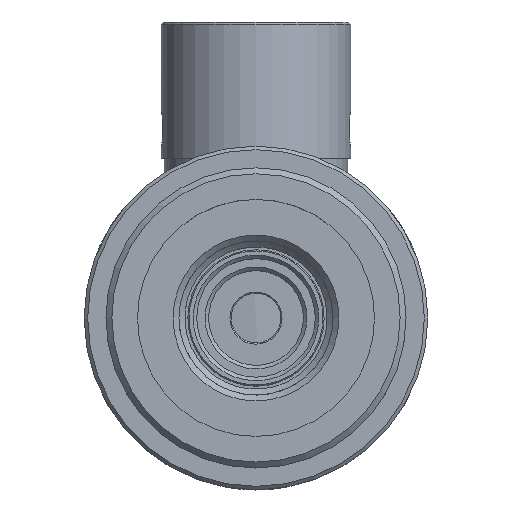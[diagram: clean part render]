
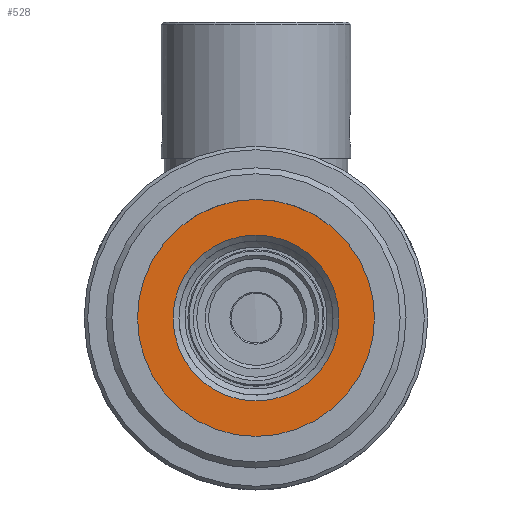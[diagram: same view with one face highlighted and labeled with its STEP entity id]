
A CAD part, top view. The second image highlights one B-rep face of the part: STEP entity #528.
In plain terms, the highlighted planar face has unit normal (0, 0, 1).
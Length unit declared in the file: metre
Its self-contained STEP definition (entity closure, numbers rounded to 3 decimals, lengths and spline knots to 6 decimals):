
#528=ADVANCED_FACE('NONE',(#1366,#1367),#1368,.F.);
#1366=FACE_BOUND('',#2676,.T.);
#1367=FACE_OUTER_BOUND('',#2677,.T.);
#1368=PLANE('',#2678);
#2676=EDGE_LOOP('',(#4200));
#2677=EDGE_LOOP('',(#4201));
#2678=AXIS2_PLACEMENT_3D('',#4202,#4203,#4204);
#4200=ORIENTED_EDGE('',*,*,#6549,.T.);
#4201=ORIENTED_EDGE('',*,*,#6547,.F.);
#4202=CARTESIAN_POINT('',(0.012802,0.010149,0.044099));
#4203=DIRECTION('',(0.,0.0,-1.0));
#4204=DIRECTION('',(-1.0,0.0,0.));
#6547=EDGE_CURVE('NONE',#7676,#7676,#7677,.T.);
#6549=EDGE_CURVE('NONE',#7679,#7679,#7680,.T.);
#7676=VERTEX_POINT('',#9638);
#7677=CIRCLE('',#9639,0.01);
#7679=VERTEX_POINT('',#9641);
#7680=CIRCLE('',#9642,0.007);
#9638=CARTESIAN_POINT('',(0.002802,0.000149,0.044099));
#9639=AXIS2_PLACEMENT_3D('',#11416,#11417,#11418);
#9641=CARTESIAN_POINT('',(0.005802,0.000149,0.044099));
#9642=AXIS2_PLACEMENT_3D('',#11419,#11420,#11421);
#11416=CARTESIAN_POINT('',(0.012802,0.000149,0.044099));
#11417=DIRECTION('',(0.,0.0,-1.0));
#11418=DIRECTION('',(-1.0,0.0,0.));
#11419=CARTESIAN_POINT('',(0.012802,0.000149,0.044099));
#11420=DIRECTION('',(0.,0.0,-1.0));
#11421=DIRECTION('',(-1.0,0.0,0.));
